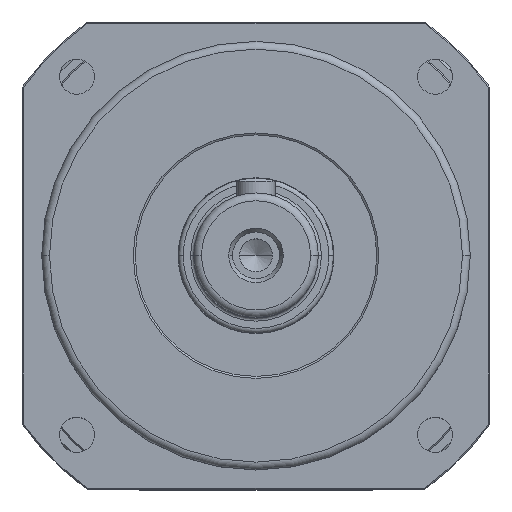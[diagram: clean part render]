
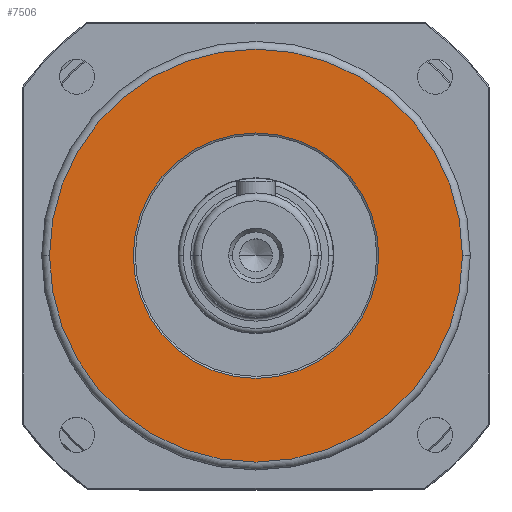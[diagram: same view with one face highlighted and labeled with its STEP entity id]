
A CAD part, top view. The second image highlights one B-rep face of the part: STEP entity #7506.
In plain terms, the highlighted planar face has unit normal (0, 0, 1).
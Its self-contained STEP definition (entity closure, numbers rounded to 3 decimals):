
#7506 = ADVANCED_FACE ( 'NONE', ( #14907, #14908 ), #11994, .T. ) ;
#9557 = CARTESIAN_POINT ( 'NONE',  ( 0., 0., 12. ) ) ;
#9558 = DIRECTION ( 'NONE',  ( 0., 0., -1. ) ) ;
#9559 = DIRECTION ( 'NONE',  ( 1., 0., 0. ) ) ;
#9568 = CARTESIAN_POINT ( 'NONE',  ( 0., 0., 12. ) ) ;
#9569 = DIRECTION ( 'NONE',  ( 0., 0., 1. ) ) ;
#9570 = DIRECTION ( 'NONE',  ( 1., 0., 0. ) ) ;
#10929 = EDGE_CURVE ( 'NONE', #22832, #22818, #16473, .T. ) ;
#10933 = EDGE_CURVE ( 'NONE', #22815, #22817, #16475, .T. ) ;
#11994 = PLANE ( 'NONE',  #20755 ) ;
#11995 = CARTESIAN_POINT ( 'NONE',  ( 0., 0., 12. ) ) ;
#11996 = DIRECTION ( 'NONE',  ( 0., 0., 1. ) ) ;
#11997 = DIRECTION ( 'NONE',  ( 1., 0., 0. ) ) ;
#14907 = FACE_BOUND ( 'NONE', #17357, .T. ) ;
#14908 = FACE_OUTER_BOUND ( 'NONE', #17358, .T. ) ;
#16473 = CIRCLE ( 'NONE', #16474, 31.5 ) ;
#16474 = AXIS2_PLACEMENT_3D ( 'NONE', #9557, #9558, #9559 ) ;
#16475 = CIRCLE ( 'NONE', #16481, 53. ) ;
#16481 = AXIS2_PLACEMENT_3D ( 'NONE', #9568, #9569, #9570 ) ;
#17357 = EDGE_LOOP ( 'NONE', ( #22780, #22782 ) ) ;
#17358 = EDGE_LOOP ( 'NONE', ( #22784, #22783 ) ) ;
#18581 = CIRCLE ( 'NONE', #18597, 53. ) ;
#18589 = CIRCLE ( 'NONE', #18595, 31.5 ) ;
#18595 = AXIS2_PLACEMENT_3D ( 'NONE', #18786, #18787, #18788 ) ;
#18597 = AXIS2_PLACEMENT_3D ( 'NONE', #18789, #18790, #18791 ) ;
#18786 = CARTESIAN_POINT ( 'NONE',  ( 0., 0., 12. ) ) ;
#18787 = DIRECTION ( 'NONE',  ( 0., 0., -1. ) ) ;
#18788 = DIRECTION ( 'NONE',  ( 1., 0., 0. ) ) ;
#18789 = CARTESIAN_POINT ( 'NONE',  ( 0., 0., 12. ) ) ;
#18790 = DIRECTION ( 'NONE',  ( 0., 0., 1. ) ) ;
#18791 = DIRECTION ( 'NONE',  ( 1., 0., 0. ) ) ;
#19576 = EDGE_CURVE ( 'NONE', #22818, #22832, #18589, .T. ) ;
#19577 = EDGE_CURVE ( 'NONE', #22817, #22815, #18581, .T. ) ;
#20755 = AXIS2_PLACEMENT_3D ( 'NONE', #11995, #11996, #11997 ) ;
#22086 = CARTESIAN_POINT ( 'NONE',  ( 53., 0., 12. ) ) ;
#22088 = CARTESIAN_POINT ( 'NONE',  ( -53., 0., 12. ) ) ;
#22089 = CARTESIAN_POINT ( 'NONE',  ( -31.5, 0., 12. ) ) ;
#22103 = CARTESIAN_POINT ( 'NONE',  ( 31.5, 0., 12. ) ) ;
#22780 = ORIENTED_EDGE ( 'NONE', *, *, #10929, .T. ) ;
#22782 = ORIENTED_EDGE ( 'NONE', *, *, #19576, .T. ) ;
#22783 = ORIENTED_EDGE ( 'NONE', *, *, #19577, .T. ) ;
#22784 = ORIENTED_EDGE ( 'NONE', *, *, #10933, .T. ) ;
#22815 = VERTEX_POINT ( 'NONE', #22086 ) ;
#22817 = VERTEX_POINT ( 'NONE', #22088 ) ;
#22818 = VERTEX_POINT ( 'NONE', #22089 ) ;
#22832 = VERTEX_POINT ( 'NONE', #22103 ) ;
